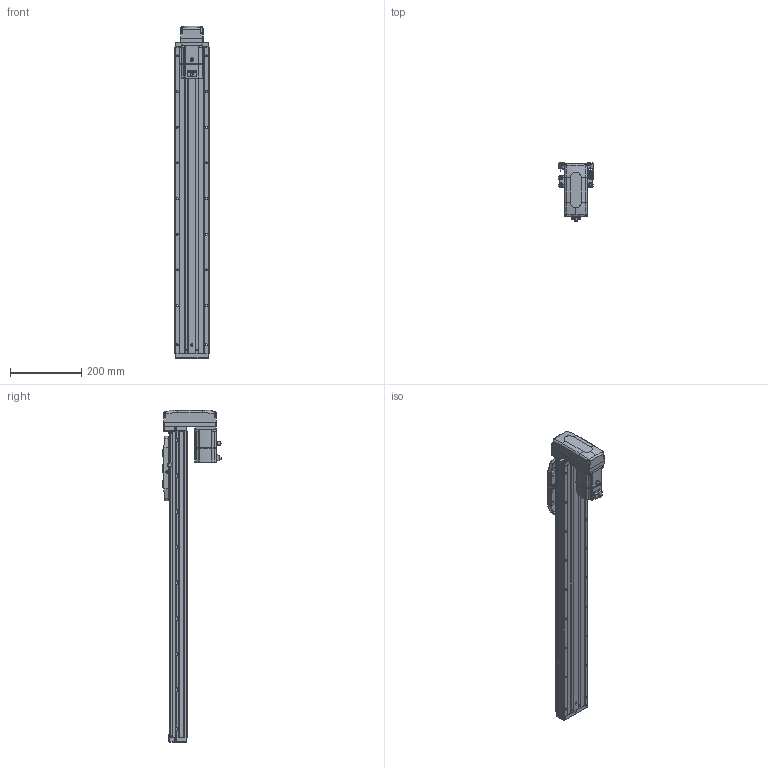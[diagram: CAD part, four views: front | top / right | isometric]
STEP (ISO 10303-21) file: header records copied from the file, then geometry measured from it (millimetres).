
FILE_DESCRIPTION (( 'STEP AP203' ), '1' );
FILE_NAME ('CTHA100-650-BM-M20-C4L.step', '2022-07-06T09:04:54', ( '微软用户' ), ( '微软中国' ), 'SwSTEP 2.0', 'SolidWorks 2020', '' );
FILE_SCHEMA (( 'CONFIG_CONTROL_DESIGN' ));
Length unit declared in the file: millimetre
Products named in the file (19): GBT77-2000 M3×3; CTHA86-030; KTHA100-004; GBT 70.1-M3℅6; GBT 70.3-M3℅6; KTHA100-005; GBT70.1 M5℅16; CTHA86-015-1_CTHA86-015-2; GB¨uT 70.2-M3¡Á5_M3¡Á6; CTHA60-016; CTHA86-033; EE_SX911P_R; _X2_4E0983F1_X0_200W_1; CTHA100-650-BM-M20-C4L; CTHA60-017; CTHA100-002; CTHA60-021; CTHA100-031; KTHA100-001_860
Assembly tree (64 placements, depth 2):
  CTHA100-650-BM-M20-C4L
    KTHA100-001_860
    KTHA100-004
    KTHA100-005
    GB¨uT 70.2-M3¡Á5_M3¡Á6  x10
    EE_SX911P_R  x3
    CTHA60-017  x3
    CTHA60-021  x2
    GBT77-2000 M3×3  x6
    GBT 70.1-M3℅6  x10
    GBT70.1 M5℅16  x14
    CTHA60-016  x2
    _X2_4E0983F1_X0_200W_1
    CTHA100-002
    CTHA100-031
    CTHA86-030  x2
    GBT 70.3-M3℅6  x4
    CTHA86-015-1_CTHA86-015-2
    CTHA86-033
Bounding box: 98.82 x 163.2 x 931 mm (x, y, z)
Volume: 3915309 mm3; surface area: 660881.6 mm2
Topology: 66 solids, 66 shells, 2689 faces, 6471 edges, 4012 vertices
Faces by surface type: plane 1404, cylinder 707, cone 355, torus 124, bspline 75, sphere 24
Entity records: 46638 total; most frequent: CARTESIAN_POINT 9147, DIRECTION 7204, ORIENTED_EDGE 7058, EDGE_CURVE 3529, AXIS2_PLACEMENT_3D 2441, VECTOR 2322, LINE 2322, VERTEX_POINT 2232
